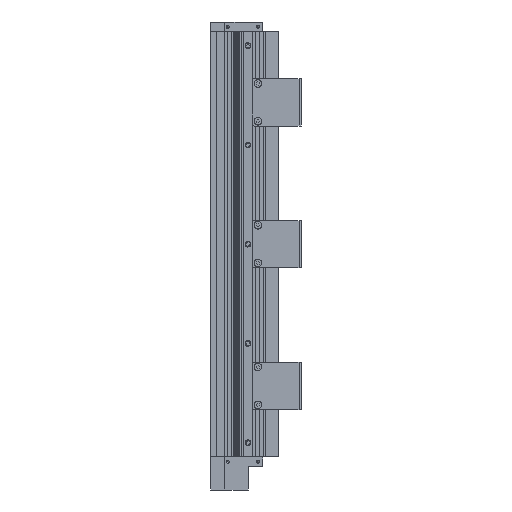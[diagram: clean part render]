
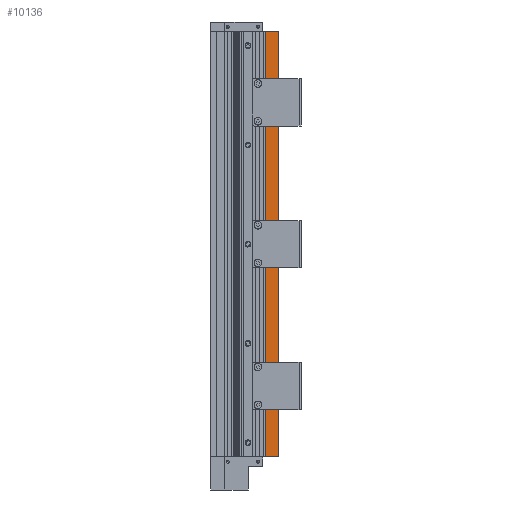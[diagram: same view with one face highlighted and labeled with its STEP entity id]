
A CAD part, left-side view. The second image highlights one B-rep face of the part: STEP entity #10136.
In plain terms, the highlighted planar face has unit normal (-1, 0, 0).
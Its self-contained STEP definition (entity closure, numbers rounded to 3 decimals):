
#1976 = LINE ( 'NONE', #18931, #2879 ) ;
#2011 = ORIENTED_EDGE ( 'NONE', *, *, #3115, .T. ) ;
#2879 = VECTOR ( 'NONE', #20030, 1000. ) ;
#3115 = EDGE_CURVE ( 'NONE', #3250, #4645, #21158, .T. ) ;
#3250 = VERTEX_POINT ( 'NONE', #17811 ) ;
#4645 = VERTEX_POINT ( 'NONE', #4702 ) ;
#4702 = CARTESIAN_POINT ( 'NONE',  ( -19.8, -3.3, 225. ) ) ;
#5874 = VERTEX_POINT ( 'NONE', #19016 ) ;
#8072 = CARTESIAN_POINT ( 'NONE',  ( -19.8, -3.3, -225. ) ) ;
#10136 = ADVANCED_FACE ( 'NONE', ( #34328 ), #30707, .F. ) ;
#11219 = EDGE_CURVE ( 'NONE', #32360, #5874, #1976, .T. ) ;
#12924 = CARTESIAN_POINT ( 'NONE',  ( -19.8, -17.5, -225. ) ) ;
#13696 = EDGE_LOOP ( 'NONE', ( #40825, #39471, #52830, #2011 ) ) ;
#16519 = VECTOR ( 'NONE', #50595, 1000. ) ;
#17811 = CARTESIAN_POINT ( 'NONE',  ( -19.8, -17.5, 225. ) ) ;
#17923 = DIRECTION ( 'NONE',  ( 0., 0., -1. ) ) ;
#18931 = CARTESIAN_POINT ( 'NONE',  ( -19.8, -17.5, -225. ) ) ;
#19016 = CARTESIAN_POINT ( 'NONE',  ( -19.8, -3.3, -225. ) ) ;
#20030 = DIRECTION ( 'NONE',  ( 0., 1., 0. ) ) ;
#20032 = LINE ( 'NONE', #36427, #35716 ) ;
#21158 = LINE ( 'NONE', #37851, #49195 ) ;
#22561 = EDGE_CURVE ( 'NONE', #5874, #4645, #41980, .T. ) ;
#30707 = PLANE ( 'NONE',  #53365 ) ;
#32360 = VERTEX_POINT ( 'NONE', #51938 ) ;
#33123 = DIRECTION ( 'NONE',  ( 0., 1., 0. ) ) ;
#34328 = FACE_OUTER_BOUND ( 'NONE', #13696, .T. ) ;
#34729 = EDGE_CURVE ( 'NONE', #32360, #3250, #20032, .T. ) ;
#35716 = VECTOR ( 'NONE', #40866, 1000. ) ;
#36427 = CARTESIAN_POINT ( 'NONE',  ( -19.8, -17.5, -225. ) ) ;
#37851 = CARTESIAN_POINT ( 'NONE',  ( -19.8, -17.5, 225. ) ) ;
#39471 = ORIENTED_EDGE ( 'NONE', *, *, #11219, .F. ) ;
#40825 = ORIENTED_EDGE ( 'NONE', *, *, #22561, .F. ) ;
#40866 = DIRECTION ( 'NONE',  ( 0., 0., 1. ) ) ;
#41980 = LINE ( 'NONE', #8072, #16519 ) ;
#49195 = VECTOR ( 'NONE', #33123, 1000. ) ;
#50595 = DIRECTION ( 'NONE',  ( 0., 0., 1. ) ) ;
#50717 = DIRECTION ( 'NONE',  ( 1., 0., 0. ) ) ;
#51938 = CARTESIAN_POINT ( 'NONE',  ( -19.8, -17.5, -225. ) ) ;
#52830 = ORIENTED_EDGE ( 'NONE', *, *, #34729, .T. ) ;
#53365 = AXIS2_PLACEMENT_3D ( 'NONE', #12924, #50717, #17923 ) ;
